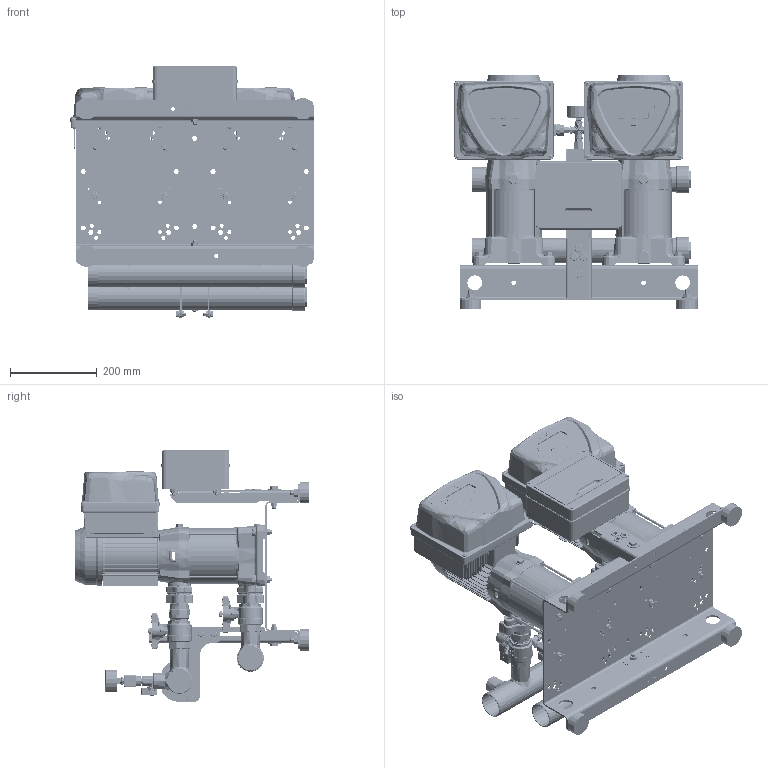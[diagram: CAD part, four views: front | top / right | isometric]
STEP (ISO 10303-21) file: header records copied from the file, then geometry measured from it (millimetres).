
FILE_DESCRIPTION((''),'2;1');
FILE_NAME('2GPE_CVM_B12_ESPM_REV4_ASM','2024-12-03T11:45:53',('Utente'),('"Ebara Pumps Europe S.p.A"'),'CREO PARAMETRIC BY PTC INC, 2022124','CREO PARAMETRIC BY PTC INC, 2022124','');
FILE_SCHEMA(('AUTOMOTIVE_DESIGN { 1 0 10303 214 1 1 1 1 }'));
Products named in the file (45): 62508_275562936; CALOTTA_F_A304_DN50_369800820; VAL_INT_MF_OTN_CIM301-14_DN32; VAL_INT_M-F_OTN_CIM301_DN32_ASM; 3IEP_CVM_B-12_R_IE3; EP_CVM_B-12_R_ASM; ADATTATORE_E-SPD_MEC71; E-SPD_ADATTATORE_MEC71_ASM; BACK_E-SPD_PLUS_2200-4000; COVER_E-SPD_PLUS_2200-4000; COM_E-SPDM_MEC71_VERT_ASM; VAL-NR-MF-OTN-CIM32-DN32; VALV_NR_MF_CIM32_DN32_ASM; RONDEL-P_FE_ZN_UNI6592_M10; DADO_AUTOAGG_M10_ESAG; VITI_TE_ISO4017_M10_L40; 62513_275562944; VAL_INT_MF_OTN_CIM012_DN8; NIPPLO_OTG_8_380000861; CROCE_OTG_DN8_380000881; TRASD_16BAR_460500024; MAN_POS_D50_10BAR_361600003; BASE_2GP_I300-B300_DNRV; MONTANTE_H300_271472898; PIEDINO_CIL_369650010; DADI_NORM_ISO4032_FE_ZN_M10; RONDEL-P_ZN_UNI6593_M10X30X2-5; VITI_TE_ISO4017_M10_L45; TRAVERSO_MONT_L200_271472882; RONDEL-P_FE_ZN_UNI6593_M6X18X2; RONDEL-P_FE_ZN_UNI6592_M6; VITI_TE_ISO4017_M6_L20; DADI_NORM_ISO4032_FE_ZN_M6; DNRV_2P_I300-B300_H300-Q195X150_ASM; QUADRO_PROT_2P_M_ELENTEK; PG_PVC_D10-5_380000891; TAPPO-SALVAFIL_D31; 271473006; 271472998; 72578_271473004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
Assembly tree (134 placements, depth 3):
  2GPE_CVM_B12_ESPM_REV4_ASM
    62508_275562936
    CALOTTA_F_A304_DN50_369800820  x2
    VAL_INT_M-F_OTN_CIM301_DN32_ASM  x4
      VAL_INT_MF_OTN_CIM301-14_DN32
    EP_CVM_B-12_R_ASM  x2
      3IEP_CVM_B-12_R_IE3
    E-SPD_ADATTATORE_MEC71_ASM  x2
      ADATTATORE_E-SPD_MEC71
    COM_E-SPDM_MEC71_VERT_ASM  x2
      BACK_E-SPD_PLUS_2200-4000
      COVER_E-SPD_PLUS_2200-4000
    VALV_NR_MF_CIM32_DN32_ASM  x2
      VAL-NR-MF-OTN-CIM32-DN32
    RONDEL-P_FE_ZN_UNI6592_M10  x8
    DADO_AUTOAGG_M10_ESAG  x9
    VITI_TE_ISO4017_M10_L40  x8
    62513_275562944
    VAL_INT_MF_OTN_CIM012_DN8
    NIPPLO_OTG_8_380000861
    CROCE_OTG_DN8_380000881
    TRASD_16BAR_460500024  x2
    MAN_POS_D50_10BAR_361600003
    DNRV_2P_I300-B300_H300-Q195X150_ASM
      BASE_2GP_I300-B300_DNRV
      MONTANTE_H300_271472898
      PIEDINO_CIL_369650010  x4
      RONDEL-P_FE_ZN_UNI6592_M10  x4
      DADI_NORM_ISO4032_FE_ZN_M10  x4
      RONDEL-P_ZN_UNI6593_M10X30X2-5
      VITI_TE_ISO4017_M10_L45
      TRAVERSO_MONT_L200_271472882  x2
      RONDEL-P_FE_ZN_UNI6593_M6X18X2  x8
      RONDEL-P_FE_ZN_UNI6592_M6  x4
      VITI_TE_ISO4017_M6_L20  x4
      DADI_NORM_ISO4032_FE_ZN_M6  x4
      DADO_AUTOAGG_M10_ESAG
    QUADRO_PROT_2P_M_ELENTEK
    PG_PVC_D10-5_380000891  x3
    TAPPO-SALVAFIL_D31  x2
    271473006
    271472998  x2
    72578_271473004  x2
    RONDEL-P_ZN_UNI6593_M10X30X2-5
    VITI_TE_ISO4017_M10_L45
    RONDEL-P_FE_ZN_UNI6592_M8  x12
    VITI_TE_ISO4017_M8_L18  x8
    DADI_NORM_ISO4032_FE_ZN_M8  x4
    DADO_AUTOAGG_M8_ESAG  x4
Bounding box: 562.5 x 539.6 x 581.25 mm (x, y, z)
Volume: 4034659.3 mm3; surface area: 4419002.4 mm2
Topology: 296 solids, 1277 shells, 32658 faces, 85173 edges, 52542 vertices
Faces by surface type: plane 15767, cylinder 8005, bspline 2637, sphere 2073, cone 1521, extrusion 1426, torus 1229
Entity records: 735240 total; most frequent: CARTESIAN_POINT 288239, ORIENTED_EDGE 74528, DIRECTION 71820, EDGE_CURVE 38610, VERTEX_POINT 24222, AXIS2_PLACEMENT_3D 23963, VECTOR 23762, LINE 23132
